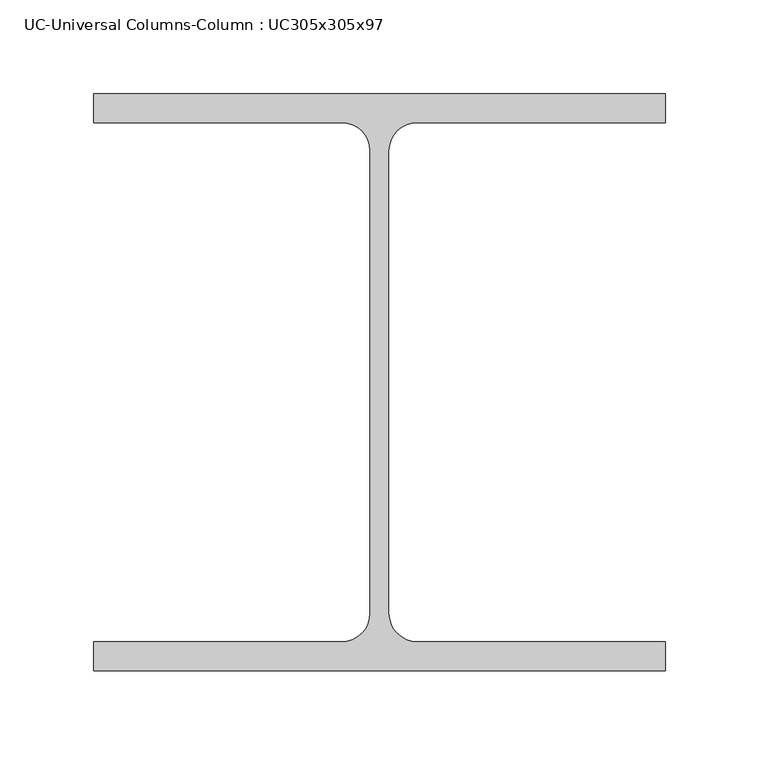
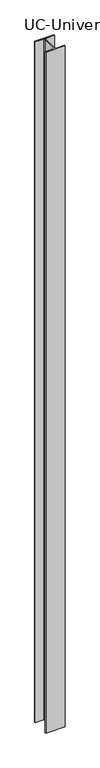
"""IFC4 building model written with IfcOpenShell, lengths in millimetres: column geometry, UC-Universal Columns-Column : UC305x305x97."""

from ifc_helpers import new_model, si_unit, point, frame_2d, origin, origin_with_axes, place, context, project, spatial, polyline, circle_curve, trimmed, segment, composite_curve, outline, extrude, source, transform, mapped, element, save


def uc_universal_columns_column_uc305x305x97_f7e977a0(model_context):
    return source(origin(), model_context, "Body", "SweptSolid", [
        extrude(outline(composite_curve([segment(polyline([(152.65, 153.95), (152.65, 138.55), (20.15, 138.55)]), True, "CONTINUOUS"), segment(trimmed(circle_curve(frame_2d((20.15, 123.35)), 15.2), [point((20.15, 138.55))], [point((4.95, 123.35))], True, "CARTESIAN"), True, "CONTINUOUS"), segment(polyline([(4.95, 123.35), (4.95, -123.35)]), True, "CONTINUOUS"), segment(trimmed(circle_curve(frame_2d((20.15, -123.35)), 15.2), [point((4.95, -123.35))], [point((20.15, -138.55))], True, "CARTESIAN"), True, "CONTINUOUS"), segment(polyline([(20.15, -138.55), (152.65, -138.55), (152.65, -153.95), (-152.65, -153.95), (-152.65, -138.55), (-20.15, -138.55)]), True, "CONTINUOUS"), segment(trimmed(circle_curve(frame_2d((-20.15, -123.35)), 15.2), [point((-20.15, -138.55))], [point((-4.95, -123.35))], True, "CARTESIAN"), True, "CONTINUOUS"), segment(polyline([(-4.95, -123.35), (-4.95, 123.35)]), True, "CONTINUOUS"), segment(trimmed(circle_curve(frame_2d((-20.15, 123.35)), 15.2), [point((-4.95, 123.35))], [point((-20.15, 138.55))], True, "CARTESIAN"), True, "CONTINUOUS"), segment(polyline([(-20.15, 138.55), (-152.65, 138.55), (-152.65, 153.95), (152.65, 153.95)]), True, "CONTINUOUS")], self_intersect=False)), origin_with_axes(), (0.0, 0.0, 1.0), 11500.0),
    ])


if __name__ == "__main__":
    model = new_model("IFC4")
    model_context = context("Model", 3, world=origin())
    ifc_project = project(units=[si_unit("LENGTHUNIT", "METRE", prefix="MILLI")], contexts=[model_context])
    site = spatial("IfcSite", under=ifc_project)
    building = spatial("IfcBuilding", under=site)
    placement = place(None, origin())
    uc_universal_columns_column_uc305x305x97_shape = uc_universal_columns_column_uc305x305x97_f7e977a0(model_context)
    element("IfcColumn", 1, ObjectType="UC-Universal Columns-Column : UC305x305x97", at=placement, inside=building, context=model_context, shape_type="MappedRepresentation", body=[
        mapped(uc_universal_columns_column_uc305x305x97_shape, transform((0.0, 0.0, 0.0), x_axis=(1.0, 0.0, 0.0), y_axis=(0.0, 1.0, 0.0), z_axis=(0.0, 0.0, 1.0))),
    ])
    save(model, "model.ifc")
